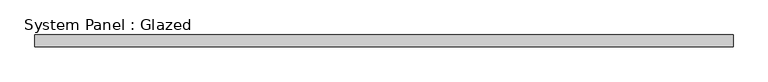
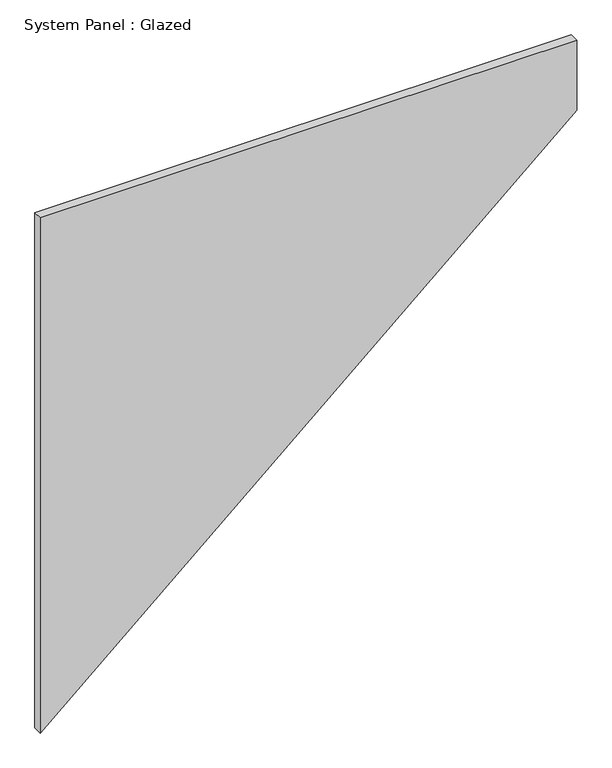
"""IFC4 building model written with IfcOpenShell, lengths in millimetres: plate geometry, System Panel : Glazed."""

from ifc_helpers import new_model, si_unit, frame, origin, place, context, project, spatial, polyline, outline, extrude, source, transform, mapped, element, save


def system_panel_glazed_a6529088(model_context):
    return source(origin(), model_context, "Body", "SweptSolid", [
        extrude(outline(polyline([(0.0, -735.8695652), (1290.3580977, 735.8695652), (1494.3484474, 735.8695652), (1494.3484474, -735.8695652), (0.0, -735.8695652)])), frame((0.0, 24.5, 0.0), z_axis=(0.0, 1.0, 0.0), x_axis=(0.0, 0.0, 1.0)), (0.0, 0.0, 1.0), 25.0),
    ])


if __name__ == "__main__":
    model = new_model("IFC4")
    model_context = context("Model", 3, world=origin())
    ifc_project = project(units=[si_unit("LENGTHUNIT", "METRE", prefix="MILLI")], contexts=[model_context])
    site = spatial("IfcSite", under=ifc_project)
    building = spatial("IfcBuilding", under=site)
    placement = place(None, origin())
    system_panel_glazed_shape = system_panel_glazed_a6529088(model_context)
    element("IfcPlate", 1, ObjectType="System Panel : Glazed", at=placement, inside=building, context=model_context, shape_type="MappedRepresentation", body=[
        mapped(system_panel_glazed_shape, transform((0.0, 0.0, 0.0), x_axis=(1.0, 0.0, 0.0), y_axis=(0.0, 1.0, 0.0), z_axis=(0.0, 0.0, 1.0))),
    ])
    save(model, "model.ifc")
